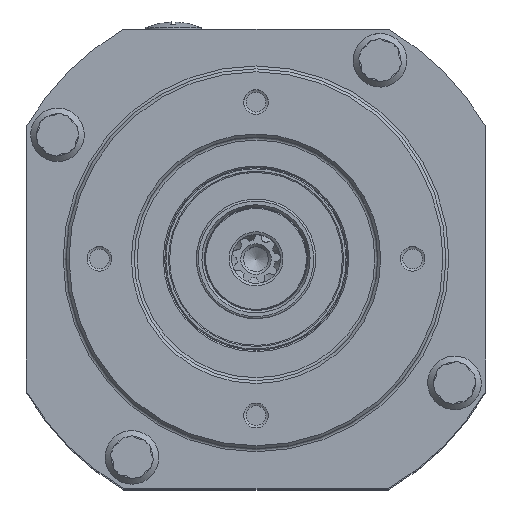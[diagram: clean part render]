
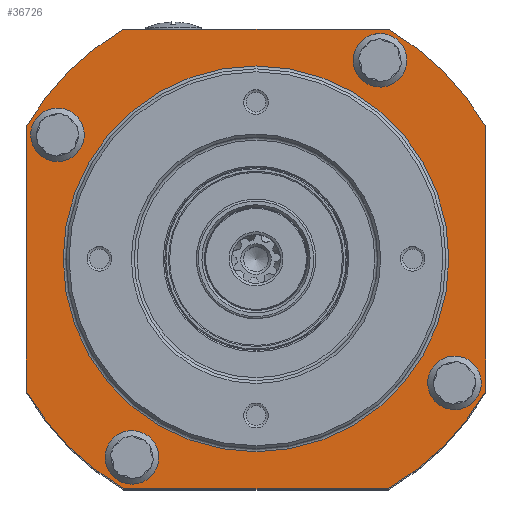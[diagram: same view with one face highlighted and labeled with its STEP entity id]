
A CAD part, top view. The second image highlights one B-rep face of the part: STEP entity #36726.
In plain terms, the highlighted planar face has unit normal (0, 0, 1).
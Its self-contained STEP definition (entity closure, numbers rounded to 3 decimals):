
#375=FACE_BOUND('',#5685,.T.);
#376=FACE_BOUND('',#5686,.T.);
#377=FACE_BOUND('',#5687,.T.);
#378=FACE_BOUND('',#5688,.T.);
#379=FACE_BOUND('',#5689,.T.);
#1155=PLANE('',#40112);
#3563=FACE_OUTER_BOUND('',#5684,.T.);
#5684=EDGE_LOOP('',(#30024,#30025,#30026,#30027,#30028,#30029,#30030,#30031));
#5685=EDGE_LOOP('',(#30032,#30033));
#5686=EDGE_LOOP('',(#30034,#30035));
#5687=EDGE_LOOP('',(#30036,#30037));
#5688=EDGE_LOOP('',(#30038,#30039));
#5689=EDGE_LOOP('',(#30040,#30041));
#7440=CIRCLE('',#39827,9.1);
#7441=CIRCLE('',#39828,9.1);
#7475=CIRCLE('',#39875,9.1);
#7476=CIRCLE('',#39876,9.1);
#7510=CIRCLE('',#39923,9.1);
#7511=CIRCLE('',#39924,9.1);
#7545=CIRCLE('',#39971,9.1);
#7546=CIRCLE('',#39972,9.1);
#7609=CIRCLE('',#40055,65.5);
#7610=CIRCLE('',#40056,65.5);
#7634=CIRCLE('',#40101,90.);
#7636=CIRCLE('',#40104,90.);
#7638=CIRCLE('',#40107,90.);
#7640=CIRCLE('',#40110,90.);
#10220=LINE('',#67960,#13050);
#10224=LINE('',#67977,#13054);
#10228=LINE('',#67994,#13058);
#10259=LINE('',#68186,#13089);
#13050=VECTOR('',#48622,10.);
#13054=VECTOR('',#48636,10.);
#13058=VECTOR('',#48650,10.);
#13089=VECTOR('',#48867,10.);
#16043=VERTEX_POINT('',#67175);
#16044=VERTEX_POINT('',#67176);
#16114=VERTEX_POINT('',#67391);
#16115=VERTEX_POINT('',#67392);
#16185=VERTEX_POINT('',#67607);
#16186=VERTEX_POINT('',#67608);
#16256=VERTEX_POINT('',#67823);
#16257=VERTEX_POINT('',#67824);
#16293=VERTEX_POINT('',#67953);
#16296=VERTEX_POINT('',#67958);
#16301=VERTEX_POINT('',#67970);
#16304=VERTEX_POINT('',#67975);
#16309=VERTEX_POINT('',#67987);
#16312=VERTEX_POINT('',#67992);
#16345=VERTEX_POINT('',#68085);
#16346=VERTEX_POINT('',#68087);
#16379=VERTEX_POINT('',#68183);
#16380=VERTEX_POINT('',#68185);
#20704=EDGE_CURVE('',#16043,#16044,#7440,.T.);
#20705=EDGE_CURVE('',#16044,#16043,#7441,.T.);
#20788=EDGE_CURVE('',#16114,#16115,#7475,.T.);
#20789=EDGE_CURVE('',#16115,#16114,#7476,.T.);
#20872=EDGE_CURVE('',#16185,#16186,#7510,.T.);
#20873=EDGE_CURVE('',#16186,#16185,#7511,.T.);
#20956=EDGE_CURVE('',#16256,#16257,#7545,.T.);
#20957=EDGE_CURVE('',#16257,#16256,#7546,.T.);
#21006=EDGE_CURVE('',#16293,#16296,#10220,.T.);
#21014=EDGE_CURVE('',#16301,#16304,#10224,.T.);
#21022=EDGE_CURVE('',#16309,#16312,#10228,.T.);
#21068=EDGE_CURVE('',#16345,#16346,#7609,.T.);
#21069=EDGE_CURVE('',#16346,#16345,#7610,.T.);
#21112=EDGE_CURVE('',#16380,#16379,#10259,.T.);
#21115=EDGE_CURVE('',#16379,#16301,#7634,.T.);
#21117=EDGE_CURVE('',#16304,#16309,#7636,.T.);
#21119=EDGE_CURVE('',#16312,#16293,#7638,.T.);
#21121=EDGE_CURVE('',#16296,#16380,#7640,.T.);
#30024=ORIENTED_EDGE('',*,*,#21115,.T.);
#30025=ORIENTED_EDGE('',*,*,#21014,.T.);
#30026=ORIENTED_EDGE('',*,*,#21117,.T.);
#30027=ORIENTED_EDGE('',*,*,#21022,.T.);
#30028=ORIENTED_EDGE('',*,*,#21119,.T.);
#30029=ORIENTED_EDGE('',*,*,#21006,.T.);
#30030=ORIENTED_EDGE('',*,*,#21121,.T.);
#30031=ORIENTED_EDGE('',*,*,#21112,.T.);
#30032=ORIENTED_EDGE('',*,*,#20704,.T.);
#30033=ORIENTED_EDGE('',*,*,#20705,.T.);
#30034=ORIENTED_EDGE('',*,*,#20788,.T.);
#30035=ORIENTED_EDGE('',*,*,#20789,.T.);
#30036=ORIENTED_EDGE('',*,*,#20872,.T.);
#30037=ORIENTED_EDGE('',*,*,#20873,.T.);
#30038=ORIENTED_EDGE('',*,*,#20956,.T.);
#30039=ORIENTED_EDGE('',*,*,#20957,.T.);
#30040=ORIENTED_EDGE('',*,*,#21069,.F.);
#30041=ORIENTED_EDGE('',*,*,#21068,.F.);
#36726=ADVANCED_FACE('',(#3563,#375,#376,#377,#378,#379),#1155,.T.);
#39827=AXIS2_PLACEMENT_3D('',#67177,#48200,#48201);
#39828=AXIS2_PLACEMENT_3D('',#67178,#48202,#48203);
#39875=AXIS2_PLACEMENT_3D('',#67393,#48321,#48322);
#39876=AXIS2_PLACEMENT_3D('',#67394,#48323,#48324);
#39923=AXIS2_PLACEMENT_3D('',#67609,#48442,#48443);
#39924=AXIS2_PLACEMENT_3D('',#67610,#48444,#48445);
#39971=AXIS2_PLACEMENT_3D('',#67825,#48563,#48564);
#39972=AXIS2_PLACEMENT_3D('',#67826,#48565,#48566);
#40055=AXIS2_PLACEMENT_3D('',#68088,#48758,#48759);
#40056=AXIS2_PLACEMENT_3D('',#68089,#48760,#48761);
#40101=AXIS2_PLACEMENT_3D('',#68191,#48872,#48873);
#40104=AXIS2_PLACEMENT_3D('',#68194,#48878,#48879);
#40107=AXIS2_PLACEMENT_3D('',#68197,#48884,#48885);
#40110=AXIS2_PLACEMENT_3D('',#68200,#48890,#48891);
#40112=AXIS2_PLACEMENT_3D('',#68202,#48894,#48895);
#48200=DIRECTION('center_axis',(0.,0.,
-1.));
#48201=DIRECTION('ref_axis',(-0.922,-0.386,0.));
#48202=DIRECTION('center_axis',(0.,0.,
-1.));
#48203=DIRECTION('ref_axis',(-0.922,-0.386,0.));
#48321=DIRECTION('center_axis',(0.,0.,
-1.));
#48322=DIRECTION('ref_axis',(0.922,0.386,0.));
#48323=DIRECTION('center_axis',(0.,0.,
-1.));
#48324=DIRECTION('ref_axis',(0.922,0.386,0.));
#48442=DIRECTION('center_axis',(0.,0.,
-1.));
#48443=DIRECTION('ref_axis',(0.386,-0.922,0.));
#48444=DIRECTION('center_axis',(0.,0.,
-1.));
#48445=DIRECTION('ref_axis',(0.386,-0.922,0.));
#48563=DIRECTION('center_axis',(0.,0.,
-1.));
#48564=DIRECTION('ref_axis',(-0.386,0.922,0.));
#48565=DIRECTION('center_axis',(0.,0.,
-1.));
#48566=DIRECTION('ref_axis',(-0.386,0.922,0.));
#48622=DIRECTION('',(-1.,0.,0.));
#48636=DIRECTION('',(1.,0.,0.));
#48650=DIRECTION('',(0.,1.,0.));
#48758=DIRECTION('center_axis',(0.,0.,
1.));
#48759=DIRECTION('ref_axis',(0.,1.,0.));
#48760=DIRECTION('center_axis',(0.,0.,
1.));
#48761=DIRECTION('ref_axis',(0.,1.,0.));
#48867=DIRECTION('',(0.,-1.,0.));
#48872=DIRECTION('center_axis',(0.,0.,
1.));
#48873=DIRECTION('ref_axis',(1.,0.,0.));
#48878=DIRECTION('center_axis',(0.,0.,
1.));
#48879=DIRECTION('ref_axis',(1.,0.,0.));
#48884=DIRECTION('center_axis',(0.,0.,
1.));
#48885=DIRECTION('ref_axis',(1.,0.,0.));
#48890=DIRECTION('center_axis',(0.,0.,
1.));
#48891=DIRECTION('ref_axis',(1.,0.,0.));
#48894=DIRECTION('center_axis',(0.,0.,
1.));
#48895=DIRECTION('ref_axis',(-1.,0.,0.));
#67175=CARTESIAN_POINT('',(62.438,-34.513,51.));
#67176=CARTESIAN_POINT('',(75.814,-38.616,51.));
#67177=CARTESIAN_POINT('Origin',(67.42,-42.129,51.));
#67178=CARTESIAN_POINT('Origin',(67.42,-42.129,51.));
#67391=CARTESIAN_POINT('',(-62.438,34.513,51.));
#67392=CARTESIAN_POINT('',(-75.814,38.616,51.));
#67393=CARTESIAN_POINT('Origin',(-67.42,42.129,51.));
#67394=CARTESIAN_POINT('Origin',(-67.42,42.129,51.));
#67607=CARTESIAN_POINT('',(34.513,62.438,51.));
#67608=CARTESIAN_POINT('',(38.616,75.814,51.));
#67609=CARTESIAN_POINT('Origin',(42.129,67.42,51.));
#67610=CARTESIAN_POINT('Origin',(42.129,67.42,51.));
#67823=CARTESIAN_POINT('',(-34.513,-62.438,51.));
#67824=CARTESIAN_POINT('',(-38.616,-75.814,51.));
#67825=CARTESIAN_POINT('Origin',(-42.129,-67.42,51.));
#67826=CARTESIAN_POINT('Origin',(-42.129,-67.42,51.));
#67953=CARTESIAN_POINT('',(44.9,78.,51.));
#67958=CARTESIAN_POINT('',(-44.9,78.,51.));
#67960=CARTESIAN_POINT('',(39.,78.,51.));
#67970=CARTESIAN_POINT('',(-44.9,-78.,51.));
#67975=CARTESIAN_POINT('',(44.9,-78.,51.));
#67977=CARTESIAN_POINT('',(-39.,-78.,51.));
#67987=CARTESIAN_POINT('',(78.,-44.9,51.));
#67992=CARTESIAN_POINT('',(78.,44.9,51.));
#67994=CARTESIAN_POINT('',(78.,-89.,51.));
#68085=CARTESIAN_POINT('',(-65.5,0.,51.));
#68087=CARTESIAN_POINT('',(0.,-65.5,51.));
#68088=CARTESIAN_POINT('Origin',(0.,0.,
51.));
#68089=CARTESIAN_POINT('Origin',(0.,0.,
51.));
#68183=CARTESIAN_POINT('',(-78.,-44.9,51.));
#68185=CARTESIAN_POINT('',(-78.,44.9,51.));
#68186=CARTESIAN_POINT('',(-78.,-11.,51.));
#68191=CARTESIAN_POINT('Origin',(0.,0.,
51.));
#68194=CARTESIAN_POINT('Origin',(0.,0.,
51.));
#68197=CARTESIAN_POINT('Origin',(0.,0.,
51.));
#68200=CARTESIAN_POINT('Origin',(0.,0.,
51.));
#68202=CARTESIAN_POINT('Origin',(0.,-100.,51.));
